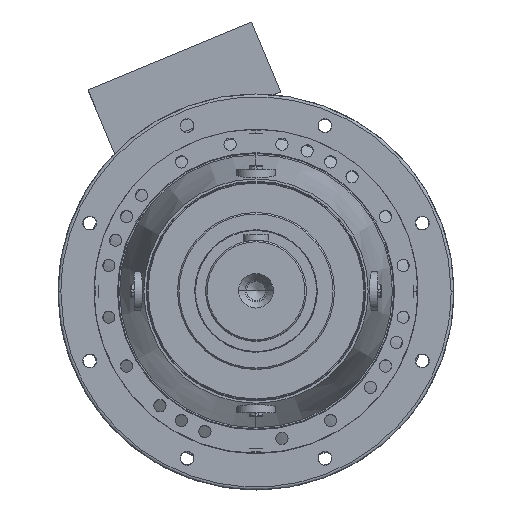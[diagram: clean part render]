
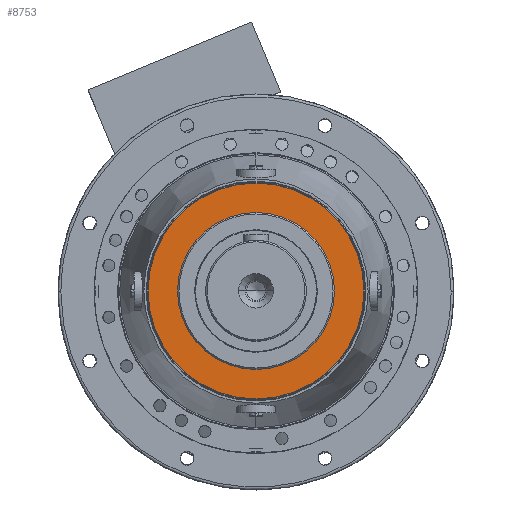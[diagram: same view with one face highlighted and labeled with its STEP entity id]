
A CAD part, top view. The second image highlights one B-rep face of the part: STEP entity #8753.
In plain terms, the highlighted planar face has unit normal (0, 0, 1).
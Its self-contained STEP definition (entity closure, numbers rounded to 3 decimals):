
#2589 = CIRCLE ( 'NONE', #8654, 150. ) ;
#2615 = CIRCLE ( 'NONE', #8663, 109. ) ;
#2638 = CIRCLE ( 'NONE', #8641, 150. ) ;
#2675 = CIRCLE ( 'NONE', #8714, 109. ) ;
#3566 = DIRECTION ( 'NONE',  ( 0., 1., 0. ) ) ;
#3578 = CARTESIAN_POINT ( 'NONE',  ( 0., 0., 220. ) ) ;
#3591 = DIRECTION ( 'NONE',  ( 0., 0., 1. ) ) ;
#3615 = CARTESIAN_POINT ( 'NONE',  ( 0., 0., 220. ) ) ;
#3625 = DIRECTION ( 'NONE',  ( 0., 0., -1. ) ) ;
#3626 = DIRECTION ( 'NONE',  ( 0., 1., 0. ) ) ;
#3758 = CARTESIAN_POINT ( 'NONE',  ( 0., 0., 220. ) ) ;
#3774 = DIRECTION ( 'NONE',  ( 0., 0., -1. ) ) ;
#3777 = DIRECTION ( 'NONE',  ( 0., 1., 0. ) ) ;
#3799 = CARTESIAN_POINT ( 'NONE',  ( 0., 0., 220. ) ) ;
#3812 = DIRECTION ( 'NONE',  ( 0., 1., 0. ) ) ;
#3827 = DIRECTION ( 'NONE',  ( 0., 0., 1. ) ) ;
#8641 = AXIS2_PLACEMENT_3D ( 'NONE', #3758, #3774, #3777 ) ;
#8654 = AXIS2_PLACEMENT_3D ( 'NONE', #3615, #3625, #3626 ) ;
#8663 = AXIS2_PLACEMENT_3D ( 'NONE', #3578, #3591, #3566 ) ;
#8714 = AXIS2_PLACEMENT_3D ( 'NONE', #3799, #3827, #3812 ) ;
#8753 = ADVANCED_FACE ( 'NONE', ( #12449, #12457 ), #10997, .F. ) ;
#9373 = AXIS2_PLACEMENT_3D ( 'NONE', #11029, #11059, #11105 ) ;
#10997 = PLANE ( 'NONE',  #9373 ) ;
#11029 = CARTESIAN_POINT ( 'NONE',  ( 0., 150., 220. ) ) ;
#11059 = DIRECTION ( 'NONE',  ( 0., 0., -1. ) ) ;
#11105 = DIRECTION ( 'NONE',  ( 0., 1., 0. ) ) ;
#12449 = FACE_BOUND ( 'NONE', #70827, .T. ) ;
#12457 = FACE_OUTER_BOUND ( 'NONE', #70787, .T. ) ;
#20575 = EDGE_CURVE ( 'NONE', #47058, #47069, #2615, .T. ) ;
#20577 = EDGE_CURVE ( 'NONE', #47065, #47018, #2589, .T. ) ;
#20628 = EDGE_CURVE ( 'NONE', #47018, #47065, #2638, .T. ) ;
#20656 = EDGE_CURVE ( 'NONE', #47069, #47058, #2675, .T. ) ;
#22815 = CARTESIAN_POINT ( 'NONE',  ( 0., -150., 220. ) ) ;
#22834 = CARTESIAN_POINT ( 'NONE',  ( 0., 150., 220. ) ) ;
#22845 = CARTESIAN_POINT ( 'NONE',  ( 0., 109., 220. ) ) ;
#22859 = CARTESIAN_POINT ( 'NONE',  ( 0., -109., 220. ) ) ;
#47018 = VERTEX_POINT ( 'NONE', #22815 ) ;
#47058 = VERTEX_POINT ( 'NONE', #22859 ) ;
#47065 = VERTEX_POINT ( 'NONE', #22834 ) ;
#47069 = VERTEX_POINT ( 'NONE', #22845 ) ;
#70787 = EDGE_LOOP ( 'NONE', ( #84887, #84910 ) ) ;
#70827 = EDGE_LOOP ( 'NONE', ( #84812, #84895 ) ) ;
#84812 = ORIENTED_EDGE ( 'NONE', *, *, #20656, .F. ) ;
#84887 = ORIENTED_EDGE ( 'NONE', *, *, #20577, .F. ) ;
#84895 = ORIENTED_EDGE ( 'NONE', *, *, #20575, .F. ) ;
#84910 = ORIENTED_EDGE ( 'NONE', *, *, #20628, .F. ) ;
